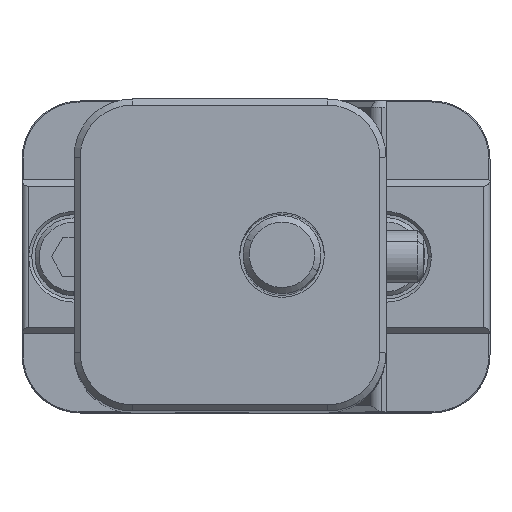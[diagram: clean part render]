
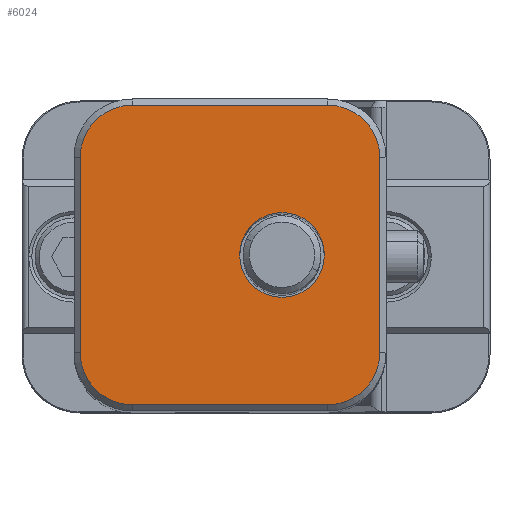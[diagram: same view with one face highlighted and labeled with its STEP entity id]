
A CAD part, top view. The second image highlights one B-rep face of the part: STEP entity #6024.
In plain terms, the highlighted planar face has unit normal (0, 0, 1).
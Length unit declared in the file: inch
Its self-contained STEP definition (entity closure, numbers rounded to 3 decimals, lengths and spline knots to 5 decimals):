
#5924 = VERTEX_POINT ( 'NONE', #16591 ) ;
#5926 = EDGE_CURVE ( 'NONE', #5927, #5924, #16590, .T. ) ;
#5927 = VERTEX_POINT ( 'NONE', #16585 ) ;
#5990 = EDGE_CURVE ( 'NONE', #6074, #6028, #16679, .T. ) ;
#5991 = EDGE_LOOP ( 'NONE', ( #5992, #5993 ) ) ;
#5992 = ORIENTED_EDGE ( 'NONE', *, *, #5926, .T. ) ;
#5993 = ORIENTED_EDGE ( 'NONE', *, *, #5994, .T. ) ;
#5994 = EDGE_CURVE ( 'NONE', #5924, #5927, #16675, .T. ) ;
#6002 = VERTEX_POINT ( 'NONE', #16719 ) ;
#6003 = ORIENTED_EDGE ( 'NONE', *, *, #6004, .T. ) ;
#6004 = EDGE_CURVE ( 'NONE', #6002, #6005, #16718, .T. ) ;
#6005 = VERTEX_POINT ( 'NONE', #16713 ) ;
#6006 = ORIENTED_EDGE ( 'NONE', *, *, #6007, .T. ) ;
#6007 = EDGE_CURVE ( 'NONE', #6005, #6008, #16712, .T. ) ;
#6008 = VERTEX_POINT ( 'NONE', #16708 ) ;
#6009 = ORIENTED_EDGE ( 'NONE', *, *, #6010, .T. ) ;
#6010 = EDGE_CURVE ( 'NONE', #6008, #6011, #16707, .T. ) ;
#6011 = VERTEX_POINT ( 'NONE', #16702 ) ;
#6012 = ORIENTED_EDGE ( 'NONE', *, *, #6013, .T. ) ;
#6013 = EDGE_CURVE ( 'NONE', #6011, #6014, #16701, .T. ) ;
#6014 = VERTEX_POINT ( 'NONE', #16697 ) ;
#6015 = ORIENTED_EDGE ( 'NONE', *, *, #6073, .T. ) ;
#6024 = ADVANCED_FACE ( 'NONE', ( #16749, #16748 ), #16747, .T. ) ;
#6025 = EDGE_LOOP ( 'NONE', ( #6026, #6030, #6003, #6006, #6009, #6012, #6015, #6075 ) ) ;
#6026 = ORIENTED_EDGE ( 'NONE', *, *, #6027, .T. ) ;
#6027 = EDGE_CURVE ( 'NONE', #6028, #6029, #16741, .T. ) ;
#6028 = VERTEX_POINT ( 'NONE', #16737 ) ;
#6029 = VERTEX_POINT ( 'NONE', #16736 ) ;
#6030 = ORIENTED_EDGE ( 'NONE', *, *, #6031, .T. ) ;
#6031 = EDGE_CURVE ( 'NONE', #6029, #6002, #16735, .T. ) ;
#6073 = EDGE_CURVE ( 'NONE', #6014, #6074, #16845, .T. ) ;
#6074 = VERTEX_POINT ( 'NONE', #16840 ) ;
#6075 = ORIENTED_EDGE ( 'NONE', *, *, #5990, .T. ) ;
#16585 = CARTESIAN_POINT ( 'NONE',  ( -0.2965, 0., 3.54 ) ) ;
#16586 = DIRECTION ( 'NONE',  ( 1., 0., 0. ) ) ;
#16587 = DIRECTION ( 'NONE',  ( 0., 0., -1. ) ) ;
#16588 = CARTESIAN_POINT ( 'NONE',  ( -0.5, 0., 3.54 ) ) ;
#16589 = AXIS2_PLACEMENT_3D ( 'NONE', #16588, #16587, #16586 ) ;
#16590 = CIRCLE ( 'NONE', #16589, 0.2035 ) ;
#16591 = CARTESIAN_POINT ( 'NONE',  ( -0.7035, 0., 3.54 ) ) ;
#16671 = DIRECTION ( 'NONE',  ( 1., 0., 0. ) ) ;
#16672 = DIRECTION ( 'NONE',  ( 0., 0., -1. ) ) ;
#16673 = CARTESIAN_POINT ( 'NONE',  ( -0.5, 0., 3.54 ) ) ;
#16674 = AXIS2_PLACEMENT_3D ( 'NONE', #16673, #16672, #16671 ) ;
#16675 = CIRCLE ( 'NONE', #16674, 0.2035 ) ;
#16676 = DIRECTION ( 'NONE',  ( 0., 1., 0. ) ) ;
#16677 = VECTOR ( 'NONE', #16676, 39.37008 ) ;
#16678 = CARTESIAN_POINT ( 'NONE',  ( -0.03, 0.47, 3.54 ) ) ;
#16679 = LINE ( 'NONE', #16678, #16677 ) ;
#16697 = CARTESIAN_POINT ( 'NONE',  ( -0.28, -0.72, 3.54 ) ) ;
#16698 = DIRECTION ( 'NONE',  ( 1., 0., 0. ) ) ;
#16699 = VECTOR ( 'NONE', #16698, 39.37008 ) ;
#16700 = CARTESIAN_POINT ( 'NONE',  ( -0.28, -0.72, 3.54 ) ) ;
#16701 = LINE ( 'NONE', #16700, #16699 ) ;
#16702 = CARTESIAN_POINT ( 'NONE',  ( -1.22, -0.72, 3.54 ) ) ;
#16703 = DIRECTION ( 'NONE',  ( 1., 0., 0. ) ) ;
#16704 = DIRECTION ( 'NONE',  ( 0., 0., 1. ) ) ;
#16705 = CARTESIAN_POINT ( 'NONE',  ( -1.22, -0.47, 3.54 ) ) ;
#16706 = AXIS2_PLACEMENT_3D ( 'NONE', #16705, #16704, #16703 ) ;
#16707 = CIRCLE ( 'NONE', #16706, 0.25 ) ;
#16708 = CARTESIAN_POINT ( 'NONE',  ( -1.47, -0.47, 3.54 ) ) ;
#16709 = DIRECTION ( 'NONE',  ( 0., -1., 0. ) ) ;
#16710 = VECTOR ( 'NONE', #16709, 39.37008 ) ;
#16711 = CARTESIAN_POINT ( 'NONE',  ( -1.47, 0.47, 3.54 ) ) ;
#16712 = LINE ( 'NONE', #16711, #16710 ) ;
#16713 = CARTESIAN_POINT ( 'NONE',  ( -1.47, 0.47, 3.54 ) ) ;
#16714 = DIRECTION ( 'NONE',  ( 1., 0., 0. ) ) ;
#16715 = DIRECTION ( 'NONE',  ( 0., 0., 1. ) ) ;
#16716 = CARTESIAN_POINT ( 'NONE',  ( -1.22, 0.47, 3.54 ) ) ;
#16717 = AXIS2_PLACEMENT_3D ( 'NONE', #16716, #16715, #16714 ) ;
#16718 = CIRCLE ( 'NONE', #16717, 0.25 ) ;
#16719 = CARTESIAN_POINT ( 'NONE',  ( -1.22, 0.72, 3.54 ) ) ;
#16732 = DIRECTION ( 'NONE',  ( -1., 0., 0. ) ) ;
#16733 = VECTOR ( 'NONE', #16732, 39.37008 ) ;
#16734 = CARTESIAN_POINT ( 'NONE',  ( -0.28, 0.72, 3.54 ) ) ;
#16735 = LINE ( 'NONE', #16734, #16733 ) ;
#16736 = CARTESIAN_POINT ( 'NONE',  ( -0.28, 0.72, 3.54 ) ) ;
#16737 = CARTESIAN_POINT ( 'NONE',  ( -0.03, 0.47, 3.54 ) ) ;
#16738 = DIRECTION ( 'NONE',  ( 1., 0., 0. ) ) ;
#16739 = DIRECTION ( 'NONE',  ( 0., 0., 1. ) ) ;
#16740 = AXIS2_PLACEMENT_3D ( 'NONE', #16745, #16739, #16738 ) ;
#16741 = CIRCLE ( 'NONE', #16740, 0.25 ) ;
#16742 = DIRECTION ( 'NONE',  ( 1., 0., 0. ) ) ;
#16743 = DIRECTION ( 'NONE',  ( 0., 0., 1. ) ) ;
#16744 = AXIS2_PLACEMENT_3D ( 'NONE', #16746, #16743, #16742 ) ;
#16745 = CARTESIAN_POINT ( 'NONE',  ( -0.28, 0.47, 3.54 ) ) ;
#16746 = CARTESIAN_POINT ( 'NONE',  ( -0.28, 0.47, 3.54 ) ) ;
#16747 = PLANE ( 'NONE',  #16744 ) ;
#16748 = FACE_BOUND ( 'NONE', #5991, .T. ) ;
#16749 = FACE_OUTER_BOUND ( 'NONE', #6025, .T. ) ;
#16840 = CARTESIAN_POINT ( 'NONE',  ( -0.03, -0.47, 3.54 ) ) ;
#16841 = DIRECTION ( 'NONE',  ( 1., 0., 0. ) ) ;
#16842 = DIRECTION ( 'NONE',  ( 0., 0., 1. ) ) ;
#16843 = CARTESIAN_POINT ( 'NONE',  ( -0.28, -0.47, 3.54 ) ) ;
#16844 = AXIS2_PLACEMENT_3D ( 'NONE', #16843, #16842, #16841 ) ;
#16845 = CIRCLE ( 'NONE', #16844, 0.25 ) ;
